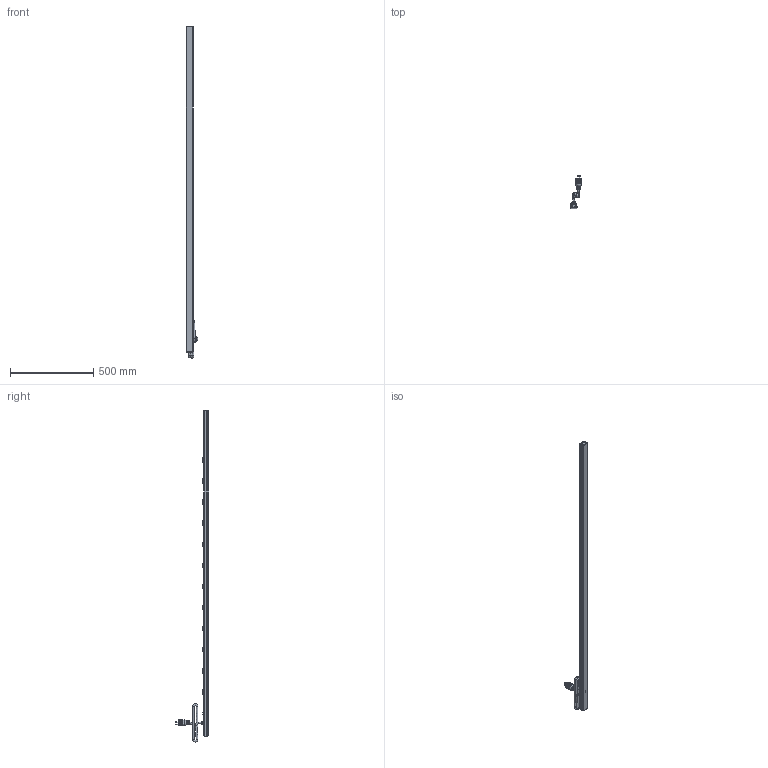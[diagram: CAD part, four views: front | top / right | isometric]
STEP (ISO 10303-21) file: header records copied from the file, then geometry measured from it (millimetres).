
FILE_DESCRIPTION((''),'2;1');
FILE_NAME('E:\Dutton\Manufacturing\drawings\Updated 2009\Vertical Rack Mount Strips\1588 Series\STEP''s\1588H12C1.stp','2010-01-19T15:25:27',('tfoster'),(''),'Autodesk Inventor 2010','Autodesk Inventor 2010','');
FILE_SCHEMA(('AUTOMOTIVE_DESIGN { 1 0 10303 214 1 1 1 1 }'));
Products named in the file (14): 1588H12C1; 1588H12 top; 1588 bottom; End Cap; End Cap w breaker; Reset Switch; #6 - 0.375 Type A screw; Twist Cored 2; toothwasher; round head 1-way 8-32 x 0.5 screw; Power Switch Assembly; Power Switch; Power Switch pt; Receptacle
Assembly tree (27 placements, depth 3):
  1588H12C1
    1588H12 top
    1588 bottom
    End Cap
    End Cap w breaker
    Reset Switch
    #6 - 0.375 Type A screw  x4
    Twist Cored 2
    toothwasher
    round head 1-way 8-32 x 0.5 screw
    Power Switch Assembly
      Power Switch
      Power Switch pt
    Receptacle  x12
Bounding box: 68.19 x 199.14 x 1999.38 mm (x, y, z)
Volume: 750708.6 mm3; surface area: 732770.5 mm2
Topology: 26 solids, 26 shells, 1519 faces, 4203 edges, 2725 vertices
Faces by surface type: plane 964, cylinder 328, bspline 130, sphere 53, cone 29, torus 15
Full cylindrical faces by diameter (mm): 1 x2, 1.803 x3, 1.905 x2, 3.175 x15, 4.3 x1, 4.826 x1, 7.849 x1, 9.5 x5, 11 x1, 19.05 x2, 21.59 x2, 22.86 x1, 24.765 x3
Entity records: 32875 total; most frequent: CARTESIAN_POINT 10273, ORIENTED_EDGE 4798, DIRECTION 4259, EDGE_CURVE 2399, VERTEX_POINT 1645, VECTOR 1459, LINE 1459, AXIS2_PLACEMENT_3D 1400
